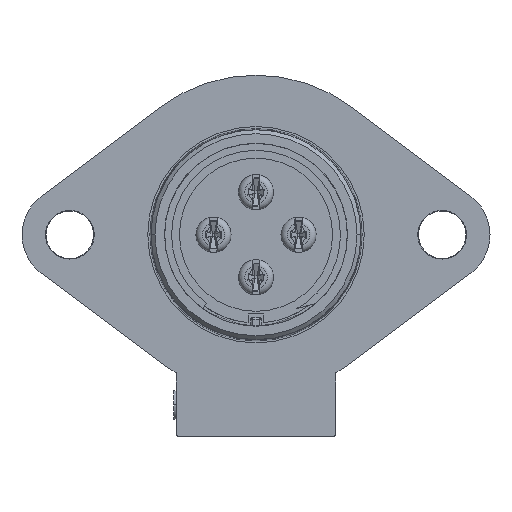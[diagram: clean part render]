
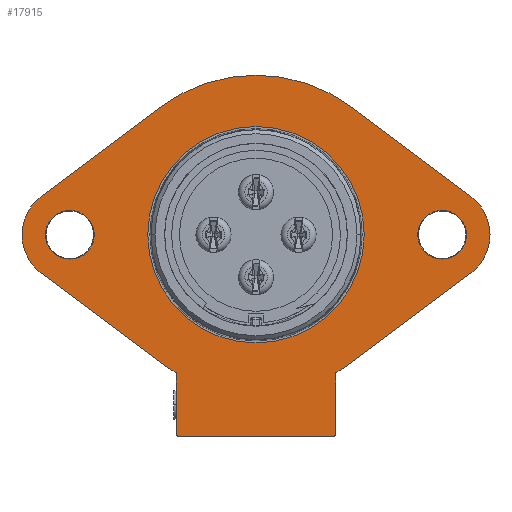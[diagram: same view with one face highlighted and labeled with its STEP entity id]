
A CAD part, front view. The second image highlights one B-rep face of the part: STEP entity #17915.
In plain terms, the highlighted planar face has unit normal (0, -1, 0).
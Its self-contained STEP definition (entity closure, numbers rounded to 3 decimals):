
#2484=CARTESIAN_POINT('',(0.866,-1.373,
-0.591));
#2485=DIRECTION('',(0.,1.,0.));
#2486=DIRECTION('',(-0.6,0.,0.8));
#2487=AXIS2_PLACEMENT_3D('',#2484,#2485,#2486);
#2489=DIRECTION('',(0.8,0.,-0.6));
#2490=VECTOR('',#2489,14.);
#2491=CARTESIAN_POINT('',(9.866,-1.373,11.409));
#2492=LINE('',#2491,#2490);
#2493=CARTESIAN_POINT('',(18.366,-1.373,
-0.591));
#2494=DIRECTION('',(0.,1.,0.));
#2495=DIRECTION('',(0.6,0.,0.8));
#2496=AXIS2_PLACEMENT_3D('',#2493,#2494,#2495);
#2498=CARTESIAN_POINT('',(18.366,-1.373,
-0.591));
#2499=DIRECTION('',(0.,1.,0.));
#2500=DIRECTION('',(1.,0.,0.));
#2501=AXIS2_PLACEMENT_3D('',#2498,#2499,#2500);
#2503=DIRECTION('',(-0.8,0.,-0.6));
#2504=VECTOR('',#2503,14.);
#2505=CARTESIAN_POINT('',(21.066,-1.373,
-4.191));
#2506=LINE('',#2505,#2504);
#2507=CARTESIAN_POINT('',(0.866,-1.373,
-0.591));
#2508=DIRECTION('',(0.,1.,0.));
#2509=DIRECTION('',(0.6,0.,-0.8));
#2510=AXIS2_PLACEMENT_3D('',#2507,#2508,#2509);
#2512=DIRECTION('',(0.,0.,-1.));
#2513=VECTOR('',#2512,5.71);
#2514=CARTESIAN_POINT('',(8.366,-1.373,
-13.581));
#2515=LINE('',#2514,#2513);
#2516=CARTESIAN_POINT('',(8.366,-1.373,
-19.291));
#2517=CARTESIAN_POINT('',(8.365,-1.373,
-19.37));
#2518=CARTESIAN_POINT('',(8.302,-1.373,
-19.527));
#2519=CARTESIAN_POINT('',(8.145,-1.373,
-19.59));
#2520=CARTESIAN_POINT('',(8.066,-1.373,
-19.591));
#2522=DIRECTION('',(-1.,0.,0.));
#2523=VECTOR('',#2522,14.4);
#2524=CARTESIAN_POINT('',(8.066,-1.373,
-19.591));
#2525=LINE('',#2524,#2523);
#2526=CARTESIAN_POINT('',(-6.334,-1.373,
-19.591));
#2527=CARTESIAN_POINT('',(-6.412,-1.373,
-19.59));
#2528=CARTESIAN_POINT('',(-6.569,-1.373,
-19.527));
#2529=CARTESIAN_POINT('',(-6.633,-1.373,
-19.37));
#2530=CARTESIAN_POINT('',(-6.634,-1.373,
-19.291));
#2532=DIRECTION('',(0.,0.,1.));
#2533=VECTOR('',#2532,5.71);
#2534=CARTESIAN_POINT('',(-6.634,-1.373,
-19.291));
#2535=LINE('',#2534,#2533);
#2536=CARTESIAN_POINT('',(0.866,-1.373,
-0.591));
#2537=DIRECTION('',(0.,1.,0.));
#2538=DIRECTION('',(-0.5,0.,-0.866));
#2539=AXIS2_PLACEMENT_3D('',#2536,#2537,#2538);
#2541=DIRECTION('',(-0.8,0.,0.6));
#2542=VECTOR('',#2541,14.);
#2543=CARTESIAN_POINT('',(-8.134,-1.373,
-12.591));
#2544=LINE('',#2543,#2542);
#2545=CARTESIAN_POINT('',(-16.634,-1.373,
-0.591));
#2546=DIRECTION('',(0.,1.,0.));
#2547=DIRECTION('',(-0.6,0.,-0.8));
#2548=AXIS2_PLACEMENT_3D('',#2545,#2546,#2547);
#2550=CARTESIAN_POINT('',(-16.634,-1.373,
-0.591));
#2551=DIRECTION('',(0.,1.,0.));
#2552=DIRECTION('',(-1.,0.,0.));
#2553=AXIS2_PLACEMENT_3D('',#2550,#2551,#2552);
#2555=DIRECTION('',(0.8,0.,0.6));
#2556=VECTOR('',#2555,14.);
#2557=CARTESIAN_POINT('',(-19.334,-1.373,
3.009));
#2558=LINE('',#2557,#2556);
#2559=CARTESIAN_POINT('',(0.866,-1.373,
-0.591));
#2560=DIRECTION('',(0.,-1.,0.));
#2561=DIRECTION('',(-1.,0.,0.));
#2562=AXIS2_PLACEMENT_3D('',#2559,#2560,#2561);
#2564=CARTESIAN_POINT('',(0.866,-1.373,
-0.591));
#2565=DIRECTION('',(0.,-1.,0.));
#2566=DIRECTION('',(1.,0.,0.));
#2567=AXIS2_PLACEMENT_3D('',#2564,#2565,#2566);
#2569=CARTESIAN_POINT('',(-16.634,-1.373,
-0.591));
#2570=DIRECTION('',(0.,-1.,0.));
#2571=DIRECTION('',(1.,0.,0.));
#2572=AXIS2_PLACEMENT_3D('',#2569,#2570,#2571);
#2574=CARTESIAN_POINT('',(-16.634,-1.373,
-0.591));
#2575=DIRECTION('',(0.,-1.,0.));
#2576=DIRECTION('',(-1.,0.,0.));
#2577=AXIS2_PLACEMENT_3D('',#2574,#2575,#2576);
#2579=CARTESIAN_POINT('',(18.366,-1.373,
-0.591));
#2580=DIRECTION('',(0.,-1.,0.));
#2581=DIRECTION('',(1.,0.,0.));
#2582=AXIS2_PLACEMENT_3D('',#2579,#2580,#2581);
#2584=CARTESIAN_POINT('',(18.366,-1.373,
-0.591));
#2585=DIRECTION('',(0.,-1.,0.));
#2586=DIRECTION('',(-1.,0.,0.));
#2587=AXIS2_PLACEMENT_3D('',#2584,#2585,#2586);
#13269=CARTESIAN_POINT('',(9.866,-1.373,
11.409));
#13270=VERTEX_POINT('',#13269);
#13271=CARTESIAN_POINT('',(-8.134,-1.373,
11.409));
#13272=VERTEX_POINT('',#13271);
#13273=CARTESIAN_POINT('',(21.066,-1.373,
3.009));
#13274=VERTEX_POINT('',#13273);
#13275=CARTESIAN_POINT('',(21.066,-1.373,
-4.191));
#13276=VERTEX_POINT('',#13275);
#13277=CARTESIAN_POINT('',(22.866,-1.373,
-0.591));
#13278=VERTEX_POINT('',#13277);
#13279=CARTESIAN_POINT('',(8.366,-1.373,
-13.581));
#13280=VERTEX_POINT('',#13279);
#13281=CARTESIAN_POINT('',(9.866,-1.373,
-12.591));
#13282=VERTEX_POINT('',#13281);
#13283=CARTESIAN_POINT('',(8.066,-1.373,
-19.591));
#13284=VERTEX_POINT('',#13283);
#13285=CARTESIAN_POINT('',(8.366,-1.373,
-19.291));
#13286=VERTEX_POINT('',#13285);
#13287=CARTESIAN_POINT('',(-6.634,-1.373,
-19.291));
#13288=VERTEX_POINT('',#13287);
#13289=CARTESIAN_POINT('',(-6.334,-1.373,
-19.591));
#13290=VERTEX_POINT('',#13289);
#13291=CARTESIAN_POINT('',(-8.134,-1.373,
-12.591));
#13292=VERTEX_POINT('',#13291);
#13293=CARTESIAN_POINT('',(-6.634,-1.373,
-13.581));
#13294=VERTEX_POINT('',#13293);
#13295=CARTESIAN_POINT('',(-19.334,-1.373,
3.009));
#13296=VERTEX_POINT('',#13295);
#13297=CARTESIAN_POINT('',(-19.334,-1.373,
-4.191));
#13298=VERTEX_POINT('',#13297);
#13299=CARTESIAN_POINT('',(-21.134,-1.373,
-0.591));
#13300=VERTEX_POINT('',#13299);
#13301=CARTESIAN_POINT('',(-9.307,-1.373,
-0.591));
#13302=CARTESIAN_POINT('',(11.04,-1.373,
-0.591));
#13303=VERTEX_POINT('',#13301);
#13304=VERTEX_POINT('',#13302);
#13305=CARTESIAN_POINT('',(-14.344,-1.373,
-0.591));
#13306=CARTESIAN_POINT('',(-18.924,-1.373,
-0.591));
#13307=VERTEX_POINT('',#13305);
#13308=VERTEX_POINT('',#13306);
#13309=CARTESIAN_POINT('',(20.656,-1.373,
-0.591));
#13310=CARTESIAN_POINT('',(16.076,-1.373,
-0.591));
#13311=VERTEX_POINT('',#13309);
#13312=VERTEX_POINT('',#13310);
#17874=CARTESIAN_POINT('',(0.866,-1.373,
-2.585));
#17875=DIRECTION('',(0.,1.,0.));
#17876=DIRECTION('',(1.,0.,0.));
#17877=AXIS2_PLACEMENT_3D('',#17874,#17875,#17876);
#17878=PLANE('',#17877);
#17879=ORIENTED_EDGE('',*,*,#17657,.T.);
#17880=ORIENTED_EDGE('',*,*,#17672,.T.);
#17881=ORIENTED_EDGE('',*,*,#17686,.T.);
#17882=ORIENTED_EDGE('',*,*,#17700,.T.);
#17883=ORIENTED_EDGE('',*,*,#17714,.T.);
#17884=ORIENTED_EDGE('',*,*,#17728,.T.);
#17885=ORIENTED_EDGE('',*,*,#17742,.T.);
#17886=ORIENTED_EDGE('',*,*,#17762,.T.);
#17887=ORIENTED_EDGE('',*,*,#17776,.T.);
#17888=ORIENTED_EDGE('',*,*,#17796,.T.);
#17889=ORIENTED_EDGE('',*,*,#17810,.T.);
#17890=ORIENTED_EDGE('',*,*,#17824,.T.);
#17891=ORIENTED_EDGE('',*,*,#17838,.T.);
#17892=ORIENTED_EDGE('',*,*,#17855,.T.);
#17893=ORIENTED_EDGE('',*,*,#17853,.T.);
#17894=ORIENTED_EDGE('',*,*,#17868,.T.);
#17895=EDGE_LOOP('',(#17879,#17880,#17881,#17882,#17883,#17884,#17885,#17886,
#17887,#17888,#17889,#17890,#17891,#17892,#17893,#17894));
#17896=FACE_OUTER_BOUND('',#17895,.F.);
#17898=ORIENTED_EDGE('',*,*,#17897,.T.);
#17900=ORIENTED_EDGE('',*,*,#17899,.T.);
#17901=EDGE_LOOP('',(#17898,#17900));
#17902=FACE_BOUND('',#17901,.F.);
#17904=ORIENTED_EDGE('',*,*,#17903,.T.);
#17906=ORIENTED_EDGE('',*,*,#17905,.T.);
#17907=EDGE_LOOP('',(#17904,#17906));
#17908=FACE_BOUND('',#17907,.F.);
#17910=ORIENTED_EDGE('',*,*,#17909,.T.);
#17912=ORIENTED_EDGE('',*,*,#17911,.T.);
#17913=EDGE_LOOP('',(#17910,#17912));
#17914=FACE_BOUND('',#17913,.F.);
#17915=ADVANCED_FACE('',(#17896,#17902,#17908,#17914),#17878,.F.);
#2488=CIRCLE('',#2487,15.);
#2497=CIRCLE('',#2496,4.5);
#2502=CIRCLE('',#2501,4.5);
#2511=CIRCLE('',#2510,15.);
#2521=B_SPLINE_CURVE_WITH_KNOTS('',3,(#2516,#2517,#2518,#2519,#2520),
.UNSPECIFIED.,.F.,.F.,(4,1,4),(0.,0.5,1.),.UNSPECIFIED.);
#2531=B_SPLINE_CURVE_WITH_KNOTS('',3,(#2526,#2527,#2528,#2529,#2530),
.UNSPECIFIED.,.F.,.F.,(4,1,4),(0.,0.5,1.),.UNSPECIFIED.);
#2540=CIRCLE('',#2539,15.);
#2549=CIRCLE('',#2548,4.5);
#2554=CIRCLE('',#2553,4.5);
#2563=CIRCLE('',#2562,10.173);
#2568=CIRCLE('',#2567,10.173);
#2573=CIRCLE('',#2572,2.29);
#2578=CIRCLE('',#2577,2.29);
#2583=CIRCLE('',#2582,2.29);
#2588=CIRCLE('',#2587,2.29);
#17657=EDGE_CURVE('',#13272,#13270,#2488,.T.);
#17672=EDGE_CURVE('',#13270,#13274,#2492,.T.);
#17686=EDGE_CURVE('',#13274,#13278,#2497,.T.);
#17700=EDGE_CURVE('',#13278,#13276,#2502,.T.);
#17714=EDGE_CURVE('',#13276,#13282,#2506,.T.);
#17728=EDGE_CURVE('',#13282,#13280,#2511,.T.);
#17742=EDGE_CURVE('',#13280,#13286,#2515,.T.);
#17762=EDGE_CURVE('',#13286,#13284,#2521,.T.);
#17776=EDGE_CURVE('',#13284,#13290,#2525,.T.);
#17796=EDGE_CURVE('',#13290,#13288,#2531,.T.);
#17810=EDGE_CURVE('',#13288,#13294,#2535,.T.);
#17824=EDGE_CURVE('',#13294,#13292,#2540,.T.);
#17838=EDGE_CURVE('',#13292,#13298,#2544,.T.);
#17853=EDGE_CURVE('',#13300,#13296,#2554,.T.);
#17855=EDGE_CURVE('',#13298,#13300,#2549,.T.);
#17868=EDGE_CURVE('',#13296,#13272,#2558,.T.);
#17897=EDGE_CURVE('',#13303,#13304,#2563,.T.);
#17899=EDGE_CURVE('',#13304,#13303,#2568,.T.);
#17903=EDGE_CURVE('',#13307,#13308,#2573,.T.);
#17905=EDGE_CURVE('',#13308,#13307,#2578,.T.);
#17909=EDGE_CURVE('',#13311,#13312,#2583,.T.);
#17911=EDGE_CURVE('',#13312,#13311,#2588,.T.);
